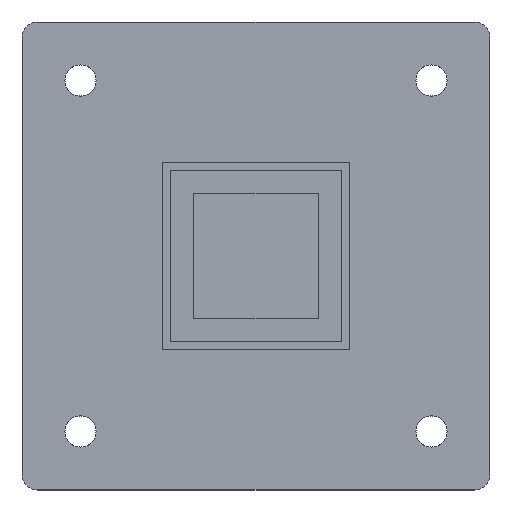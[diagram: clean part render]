
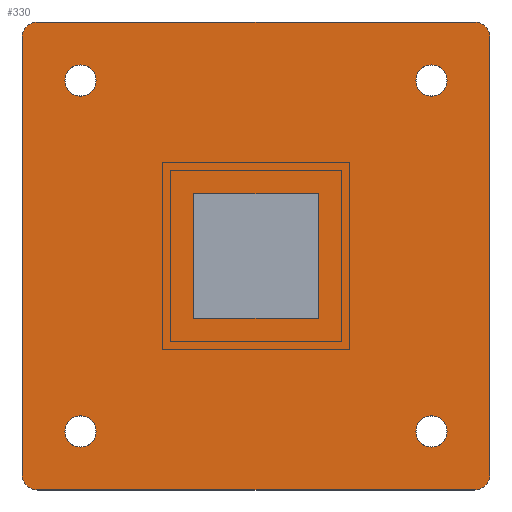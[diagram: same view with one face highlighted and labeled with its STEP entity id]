
A CAD part, top view. The second image highlights one B-rep face of the part: STEP entity #330.
In plain terms, the highlighted planar face has unit normal (0, 0, 1).
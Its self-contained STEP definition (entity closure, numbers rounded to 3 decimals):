
#268 = EDGE_CURVE( '', #302, #422, #735, .T. );
#290 = EDGE_CURVE( '', #320, #302, #758, .T. );
#302 = VERTEX_POINT( '', #772 );
#312 = EDGE_CURVE( '', #338, #320, #782, .T. );
#320 = VERTEX_POINT( '', #793 );
#326 = EDGE_CURVE( '', #370, #338, #799, .T. );
#330 = ADVANCED_FACE( '', ( #804, #805, #806, #807, #808, #809 ), #810, .T. );
#338 = VERTEX_POINT( '', #819 );
#358 = VERTEX_POINT( '', #840 );
#362 = EDGE_CURVE( '', #396, #370, #845, .T. );
#368 = EDGE_CURVE( '', #440, #358, #852, .T. );
#370 = VERTEX_POINT( '', #854 );
#382 = EDGE_CURVE( '', #450, #588, #867, .T. );
#384 = EDGE_CURVE( '', #674, #390, #869, .T. );
#388 = EDGE_CURVE( '', #410, #396, #873, .T. );
#390 = VERTEX_POINT( '', #875 );
#396 = VERTEX_POINT( '', #881 );
#406 = EDGE_CURVE( '', #414, #410, #892, .T. );
#410 = VERTEX_POINT( '', #896 );
#414 = VERTEX_POINT( '', #900 );
#416 = EDGE_CURVE( '', #422, #414, #902, .T. );
#422 = VERTEX_POINT( '', #908 );
#430 = EDGE_CURVE( '', #596, #566, #917, .T. );
#432 = EDGE_CURVE( '', #358, #440, #919, .T. );
#438 = EDGE_CURVE( '', #390, #674, #927, .T. );
#440 = VERTEX_POINT( '', #929 );
#446 = EDGE_CURVE( '', #588, #450, #935, .T. );
#450 = VERTEX_POINT( '', #939 );
#474 = EDGE_CURVE( '', #514, #606, #967, .T. );
#506 = EDGE_CURVE( '', #552, #514, #1005, .T. );
#514 = VERTEX_POINT( '', #1014 );
#544 = EDGE_CURVE( '', #598, #552, #1052, .T. );
#548 = EDGE_CURVE( '', #566, #596, #1056, .T. );
#552 = VERTEX_POINT( '', #1060 );
#566 = VERTEX_POINT( '', #1074 );
#588 = VERTEX_POINT( '', #1096 );
#590 = EDGE_CURVE( '', #606, #598, #1098, .T. );
#596 = VERTEX_POINT( '', #1104 );
#598 = VERTEX_POINT( '', #1106 );
#606 = VERTEX_POINT( '', #1114 );
#674 = VERTEX_POINT( '', #1193 );
#735 = CIRCLE( '', #1256, 2. );
#758 = LINE( '', #1287, #1288 );
#772 = CARTESIAN_POINT( '', ( -28., -30., 0. ) );
#782 = CIRCLE( '', #1323, 2. );
#793 = CARTESIAN_POINT( '', ( 28., -30., 0. ) );
#799 = LINE( '', #1343, #1344 );
#804 = FACE_BOUND( '', #1349, .T. );
#805 = FACE_OUTER_BOUND( '', #1350, .T. );
#806 = FACE_BOUND( '', #1351, .T. );
#807 = FACE_BOUND( '', #1352, .T. );
#808 = FACE_BOUND( '', #1353, .T. );
#809 = FACE_BOUND( '', #1354, .T. );
#810 = PLANE( '', #1355 );
#819 = CARTESIAN_POINT( '', ( 30., -28., 0. ) );
#840 = CARTESIAN_POINT( '', ( 24.5, 22.5, 0. ) );
#845 = CIRCLE( '', #1400, 2. );
#852 = CIRCLE( '', #1408, 2. );
#854 = CARTESIAN_POINT( '', ( 30., 28., 0. ) );
#867 = CIRCLE( '', #1427, 2. );
#869 = CIRCLE( '', #1430, 2. );
#873 = LINE( '', #1437, #1438 );
#875 = CARTESIAN_POINT( '', ( -20.5, -22.5, 0. ) );
#881 = CARTESIAN_POINT( '', ( 28., 30., 0. ) );
#892 = CIRCLE( '', #1465, 2. );
#896 = CARTESIAN_POINT( '', ( -28., 30., 0. ) );
#900 = CARTESIAN_POINT( '', ( -30., 28., 0. ) );
#902 = LINE( '', #1478, #1479 );
#908 = CARTESIAN_POINT( '', ( -30., -28., 0. ) );
#917 = CIRCLE( '', #1503, 2. );
#919 = CIRCLE( '', #1506, 2. );
#927 = CIRCLE( '', #1515, 2. );
#929 = CARTESIAN_POINT( '', ( 20.5, 22.5, 0. ) );
#935 = CIRCLE( '', #1526, 2. );
#939 = CARTESIAN_POINT( '', ( -24.5, 22.5, 0. ) );
#967 = LINE( '', #1567, #1568 );
#1005 = LINE( '', #1618, #1619 );
#1014 = CARTESIAN_POINT( '', ( 8., 8., 0. ) );
#1052 = LINE( '', #1683, #1684 );
#1056 = CIRCLE( '', #1691, 2. );
#1060 = CARTESIAN_POINT( '', ( -8., 8., 0. ) );
#1074 = CARTESIAN_POINT( '', ( 20.5, -22.5, 0. ) );
#1096 = CARTESIAN_POINT( '', ( -20.5, 22.5, 0. ) );
#1098 = LINE( '', #1754, #1755 );
#1104 = CARTESIAN_POINT( '', ( 24.5, -22.5, 0. ) );
#1106 = CARTESIAN_POINT( '', ( -8., -8., 0. ) );
#1114 = CARTESIAN_POINT( '', ( 8., -8., 0. ) );
#1193 = CARTESIAN_POINT( '', ( -24.5, -22.5, 0. ) );
#1256 = AXIS2_PLACEMENT_3D( '', #1951, #1952, #1953 );
#1287 = CARTESIAN_POINT( '', ( -28., -30., 0. ) );
#1288 = VECTOR( '', #1967, 1. );
#1323 = AXIS2_PLACEMENT_3D( '', #1989, #1990, #1991 );
#1343 = CARTESIAN_POINT( '', ( 30., -28., 0. ) );
#1344 = VECTOR( '', #2013, 1. );
#1349 = EDGE_LOOP( '', ( #2023, #2024, #2025, #2026 ) );
#1350 = EDGE_LOOP( '', ( #2027, #2028, #2029, #2030, #2031, #2032, #2033, #2034 ) );
#1351 = EDGE_LOOP( '', ( #2035, #2036 ) );
#1352 = EDGE_LOOP( '', ( #2037, #2038 ) );
#1353 = EDGE_LOOP( '', ( #2039, #2040 ) );
#1354 = EDGE_LOOP( '', ( #2041, #2042 ) );
#1355 = AXIS2_PLACEMENT_3D( '', #2043, #2044, #2045 );
#1400 = AXIS2_PLACEMENT_3D( '', #2077, #2078, #2079 );
#1408 = AXIS2_PLACEMENT_3D( '', #2088, #2089, #2090 );
#1427 = AXIS2_PLACEMENT_3D( '', #2103, #2104, #2105 );
#1430 = AXIS2_PLACEMENT_3D( '', #2106, #2107, #2108 );
#1437 = CARTESIAN_POINT( '', ( 28., 30., 0. ) );
#1438 = VECTOR( '', #2110, 1. );
#1465 = AXIS2_PLACEMENT_3D( '', #2125, #2126, #2127 );
#1478 = CARTESIAN_POINT( '', ( -30., 28., 0. ) );
#1479 = VECTOR( '', #2129, 1. );
#1503 = AXIS2_PLACEMENT_3D( '', #2142, #2143, #2144 );
#1506 = AXIS2_PLACEMENT_3D( '', #2145, #2146, #2147 );
#1515 = AXIS2_PLACEMENT_3D( '', #2164, #2165, #2166 );
#1526 = AXIS2_PLACEMENT_3D( '', #2168, #2169, #2170 );
#1567 = CARTESIAN_POINT( '', ( 8., 4., 0. ) );
#1568 = VECTOR( '', #2207, 1. );
#1618 = CARTESIAN_POINT( '', ( -4., 8., 0. ) );
#1619 = VECTOR( '', #2260, 1. );
#1683 = CARTESIAN_POINT( '', ( -8., -4., 0. ) );
#1684 = VECTOR( '', #2317, 1. );
#1691 = AXIS2_PLACEMENT_3D( '', #2319, #2320, #2321 );
#1754 = CARTESIAN_POINT( '', ( 4., -8., 0. ) );
#1755 = VECTOR( '', #2332, 1. );
#1951 = CARTESIAN_POINT( '', ( -28., -28., 0. ) );
#1952 = DIRECTION( '', ( 0., 0., -1. ) );
#1953 = DIRECTION( '', ( -1., 0., 0. ) );
#1967 = DIRECTION( '', ( -1., 0., 0. ) );
#1989 = CARTESIAN_POINT( '', ( 28., -28., 0. ) );
#1990 = DIRECTION( '', ( 0., 0., -1. ) );
#1991 = DIRECTION( '', ( 0., -1., 0. ) );
#2013 = DIRECTION( '', ( 0., -1., 0. ) );
#2023 = ORIENTED_EDGE( '', *, *, #506, .T. );
#2024 = ORIENTED_EDGE( '', *, *, #474, .T. );
#2025 = ORIENTED_EDGE( '', *, *, #590, .T. );
#2026 = ORIENTED_EDGE( '', *, *, #544, .T. );
#2027 = ORIENTED_EDGE( '', *, *, #416, .F. );
#2028 = ORIENTED_EDGE( '', *, *, #268, .F. );
#2029 = ORIENTED_EDGE( '', *, *, #290, .F. );
#2030 = ORIENTED_EDGE( '', *, *, #312, .F. );
#2031 = ORIENTED_EDGE( '', *, *, #326, .F. );
#2032 = ORIENTED_EDGE( '', *, *, #362, .F. );
#2033 = ORIENTED_EDGE( '', *, *, #388, .F. );
#2034 = ORIENTED_EDGE( '', *, *, #406, .F. );
#2035 = ORIENTED_EDGE( '', *, *, #430, .F. );
#2036 = ORIENTED_EDGE( '', *, *, #548, .F. );
#2037 = ORIENTED_EDGE( '', *, *, #432, .F. );
#2038 = ORIENTED_EDGE( '', *, *, #368, .F. );
#2039 = ORIENTED_EDGE( '', *, *, #438, .F. );
#2040 = ORIENTED_EDGE( '', *, *, #384, .F. );
#2041 = ORIENTED_EDGE( '', *, *, #446, .F. );
#2042 = ORIENTED_EDGE( '', *, *, #382, .F. );
#2043 = CARTESIAN_POINT( '', ( 0., 0., 0. ) );
#2044 = DIRECTION( '', ( 0., 0., 1. ) );
#2045 = DIRECTION( '', ( 1., 0., 0. ) );
#2077 = CARTESIAN_POINT( '', ( 28., 28., 0. ) );
#2078 = DIRECTION( '', ( 0., 0., -1. ) );
#2079 = DIRECTION( '', ( 1., 0., 0. ) );
#2088 = CARTESIAN_POINT( '', ( 22.5, 22.5, 0. ) );
#2089 = DIRECTION( '', ( 0., 0., 1. ) );
#2090 = DIRECTION( '', ( 1., 0., 0. ) );
#2103 = CARTESIAN_POINT( '', ( -22.5, 22.5, 0. ) );
#2104 = DIRECTION( '', ( 0., 0., 1. ) );
#2105 = DIRECTION( '', ( 1., 0., 0. ) );
#2106 = CARTESIAN_POINT( '', ( -22.5, -22.5, 0. ) );
#2107 = DIRECTION( '', ( 0., 0., 1. ) );
#2108 = DIRECTION( '', ( 1., 0., 0. ) );
#2110 = DIRECTION( '', ( 1., 0., 0. ) );
#2125 = CARTESIAN_POINT( '', ( -28., 28., 0. ) );
#2126 = DIRECTION( '', ( 0., 0., -1. ) );
#2127 = DIRECTION( '', ( 0., 1., 0. ) );
#2129 = DIRECTION( '', ( 0., 1., 0. ) );
#2142 = CARTESIAN_POINT( '', ( 22.5, -22.5, 0. ) );
#2143 = DIRECTION( '', ( 0., 0., 1. ) );
#2144 = DIRECTION( '', ( 1., 0., 0. ) );
#2145 = CARTESIAN_POINT( '', ( 22.5, 22.5, 0. ) );
#2146 = DIRECTION( '', ( 0., 0., 1. ) );
#2147 = DIRECTION( '', ( 1., 0., 0. ) );
#2164 = CARTESIAN_POINT( '', ( -22.5, -22.5, 0. ) );
#2165 = DIRECTION( '', ( 0., 0., 1. ) );
#2166 = DIRECTION( '', ( 1., 0., 0. ) );
#2168 = CARTESIAN_POINT( '', ( -22.5, 22.5, 0. ) );
#2169 = DIRECTION( '', ( 0., 0., 1. ) );
#2170 = DIRECTION( '', ( 1., 0., 0. ) );
#2207 = DIRECTION( '', ( 0., -1., 0. ) );
#2260 = DIRECTION( '', ( 1., 0., 0. ) );
#2317 = DIRECTION( '', ( 0., 1., 0. ) );
#2319 = CARTESIAN_POINT( '', ( 22.5, -22.5, 0. ) );
#2320 = DIRECTION( '', ( 0., 0., 1. ) );
#2321 = DIRECTION( '', ( 1., 0., 0. ) );
#2332 = DIRECTION( '', ( -1., 0., 0. ) );
